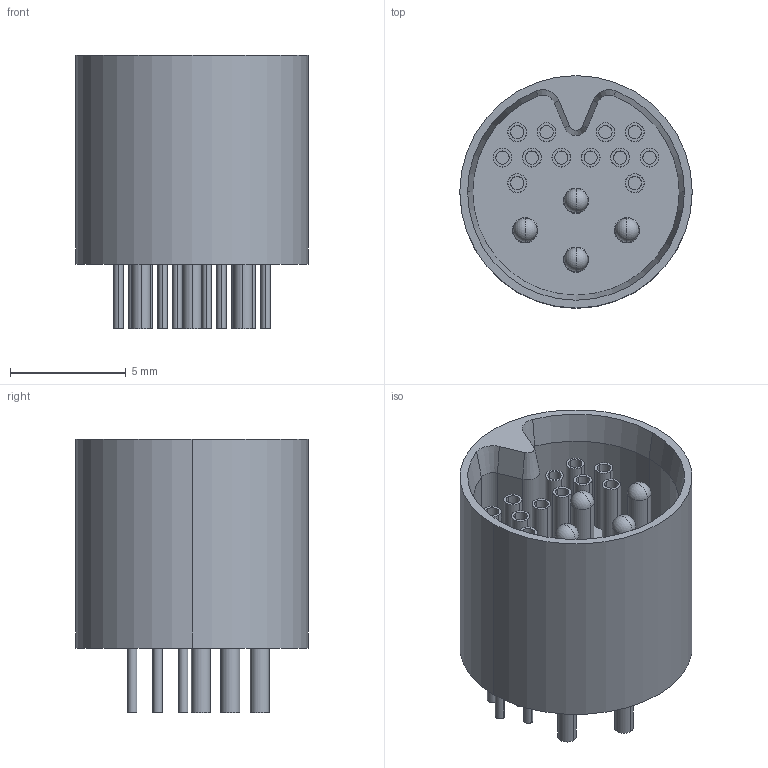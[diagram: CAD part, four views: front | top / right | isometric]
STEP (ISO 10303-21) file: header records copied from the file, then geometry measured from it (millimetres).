
FILE_DESCRIPTION (( 'STEP AP214' ), '1' );
FILE_NAME ('A90178-001 REV B.STEP', '2018-01-25T17:18:20', ( '' ), ( '' ), 'SwSTEP 2.0', 'SolidWorks 2017', '' );
FILE_SCHEMA (( 'AUTOMOTIVE_DESIGN' ));
Length unit declared in the file: inch
Products named in the file (1): A90178-001 REV_A
Bounding box: 10.03 x 10.03 x 11.81 mm (x, y, z)
Volume: 449.4 mm3; surface area: 984.7 mm2
Topology: 1 solids, 1 shells, 293 faces, 674 edges, 432 vertices
Faces by surface type: cylinder 200, plane 71, torus 8, sphere 8, cone 6
Entity records: 8534 total; most frequent: CARTESIAN_POINT 1616, DIRECTION 1580, ORIENTED_EDGE 1316, AXIS2_PLACEMENT_3D 676, EDGE_CURVE 658, VERTEX_POINT 424, CIRCLE 382, EDGE_LOOP 374
